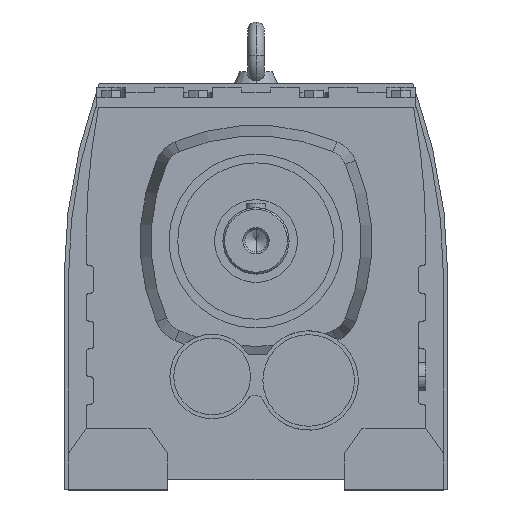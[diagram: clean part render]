
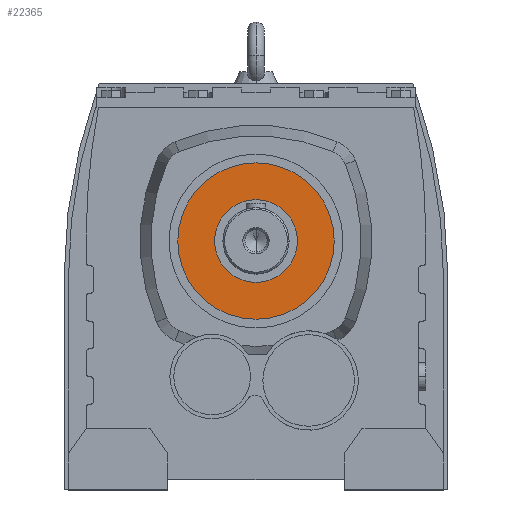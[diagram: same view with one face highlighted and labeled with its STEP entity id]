
A CAD part, top view. The second image highlights one B-rep face of the part: STEP entity #22365.
In plain terms, the highlighted planar face has unit normal (0, 0, 1).
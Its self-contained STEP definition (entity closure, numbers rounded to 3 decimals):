
#22141 = CYLINDRICAL_SURFACE('',#22142,70.875);
#22142 = AXIS2_PLACEMENT_3D('',#22143,#22144,#22145);
#22143 = CARTESIAN_POINT('',(0.,10.2,440.));
#22144 = DIRECTION('',(0.,0.,1.));
#22145 = DIRECTION('',(0.,-1.,0.));
#22171 = CYLINDRICAL_SURFACE('',#22172,70.875);
#22172 = AXIS2_PLACEMENT_3D('',#22173,#22174,#22175);
#22173 = CARTESIAN_POINT('',(0.,10.2,440.));
#22174 = DIRECTION('',(0.,0.,1.));
#22175 = DIRECTION('',(0.,-1.,0.));
#22271 = VERTEX_POINT('',#22272);
#22272 = CARTESIAN_POINT('',(0.,81.075,308.));
#22293 = VERTEX_POINT('',#22294);
#22294 = CARTESIAN_POINT('',(0.,-60.675,308.));
#22313 = EDGE_CURVE('',#22271,#22293,#22314,.T.);
#22314 = SURFACE_CURVE('',#22315,(#22320,#22326),.PCURVE_S1.);
#22315 = CIRCLE('',#22316,70.875);
#22316 = AXIS2_PLACEMENT_3D('',#22317,#22318,#22319);
#22317 = CARTESIAN_POINT('',(0.,10.2,308.));
#22318 = DIRECTION('',(0.,0.,-1.));
#22319 = DIRECTION('',(-1.,0.,0.));
#22320 = PCURVE('',#22141,#22321);
#22321 = DEFINITIONAL_REPRESENTATION('',(#22322),#22325);
#22322 = B_SPLINE_CURVE_WITH_KNOTS('',1,(#22323,#22324),.UNSPECIFIED.,
  .F.,.F.,(2,2),(1.571,4.712),
  .PIECEWISE_BEZIER_KNOTS.);
#22323 = CARTESIAN_POINT('',(3.142,-132.));
#22324 = CARTESIAN_POINT('',(0.,-132.));
#22325 = ( GEOMETRIC_REPRESENTATION_CONTEXT(2) 
PARAMETRIC_REPRESENTATION_CONTEXT() REPRESENTATION_CONTEXT('2D SPACE',''
  ) );
#22326 = PCURVE('',#22327,#22332);
#22327 = PLANE('',#22328);
#22328 = AXIS2_PLACEMENT_3D('',#22329,#22330,#22331);
#22329 = CARTESIAN_POINT('',(-30.573,-1.227,308.));
#22330 = DIRECTION('',(0.,0.,-1.));
#22331 = DIRECTION('',(-1.,0.,0.));
#22332 = DEFINITIONAL_REPRESENTATION('',(#22333),#22337);
#22333 = CIRCLE('',#22334,70.875);
#22334 = AXIS2_PLACEMENT_2D('',#22335,#22336);
#22335 = CARTESIAN_POINT('',(-30.573,11.427));
#22336 = DIRECTION('',(1.,0.));
#22337 = ( GEOMETRIC_REPRESENTATION_CONTEXT(2) 
PARAMETRIC_REPRESENTATION_CONTEXT() REPRESENTATION_CONTEXT('2D SPACE',''
  ) );
#22342 = EDGE_CURVE('',#22293,#22271,#22343,.T.);
#22343 = SURFACE_CURVE('',#22344,(#22349,#22355),.PCURVE_S1.);
#22344 = CIRCLE('',#22345,70.875);
#22345 = AXIS2_PLACEMENT_3D('',#22346,#22347,#22348);
#22346 = CARTESIAN_POINT('',(0.,10.2,308.));
#22347 = DIRECTION('',(0.,0.,-1.));
#22348 = DIRECTION('',(-1.,0.,0.));
#22349 = PCURVE('',#22171,#22350);
#22350 = DEFINITIONAL_REPRESENTATION('',(#22351),#22354);
#22351 = B_SPLINE_CURVE_WITH_KNOTS('',1,(#22352,#22353),.UNSPECIFIED.,
  .F.,.F.,(2,2),(4.712,7.854),
  .PIECEWISE_BEZIER_KNOTS.);
#22352 = CARTESIAN_POINT('',(6.283,-132.));
#22353 = CARTESIAN_POINT('',(3.142,-132.));
#22354 = ( GEOMETRIC_REPRESENTATION_CONTEXT(2) 
PARAMETRIC_REPRESENTATION_CONTEXT() REPRESENTATION_CONTEXT('2D SPACE',''
  ) );
#22355 = PCURVE('',#22327,#22356);
#22356 = DEFINITIONAL_REPRESENTATION('',(#22357),#22361);
#22357 = CIRCLE('',#22358,70.875);
#22358 = AXIS2_PLACEMENT_2D('',#22359,#22360);
#22359 = CARTESIAN_POINT('',(-30.573,11.427));
#22360 = DIRECTION('',(1.,0.));
#22361 = ( GEOMETRIC_REPRESENTATION_CONTEXT(2) 
PARAMETRIC_REPRESENTATION_CONTEXT() REPRESENTATION_CONTEXT('2D SPACE',''
  ) );
#22365 = ADVANCED_FACE('',(#22366,#22370),#22327,.F.);
#22366 = FACE_BOUND('',#22367,.T.);
#22367 = EDGE_LOOP('',(#22368,#22369));
#22368 = ORIENTED_EDGE('',*,*,#22342,.F.);
#22369 = ORIENTED_EDGE('',*,*,#22313,.F.);
#22370 = FACE_BOUND('',#22371,.T.);
#22371 = EDGE_LOOP('',(#22372,#22406));
#22372 = ORIENTED_EDGE('',*,*,#22373,.F.);
#22373 = EDGE_CURVE('',#22374,#22376,#22378,.T.);
#22374 = VERTEX_POINT('',#22375);
#22375 = CARTESIAN_POINT('',(0.,-27.3,308.));
#22376 = VERTEX_POINT('',#22377);
#22377 = CARTESIAN_POINT('',(0.,47.7,308.));
#22378 = SURFACE_CURVE('',#22379,(#22384,#22395),.PCURVE_S1.);
#22379 = CIRCLE('',#22380,37.5);
#22380 = AXIS2_PLACEMENT_3D('',#22381,#22382,#22383);
#22381 = CARTESIAN_POINT('',(0.,10.2,308.));
#22382 = DIRECTION('',(0.,0.,1.));
#22383 = DIRECTION('',(-1.,0.,0.));
#22384 = PCURVE('',#22327,#22385);
#22385 = DEFINITIONAL_REPRESENTATION('',(#22386),#22394);
#22386 = ( BOUNDED_CURVE() B_SPLINE_CURVE(2,(#22387,#22388,#22389,#22390
    ,#22391,#22392,#22393),.UNSPECIFIED.,.T.,.F.) 
B_SPLINE_CURVE_WITH_KNOTS((1,2,2,2,2,1),(-2.094,0.,
    2.094,4.189,6.283,8.378),
.UNSPECIFIED.) CURVE() GEOMETRIC_REPRESENTATION_ITEM() 
RATIONAL_B_SPLINE_CURVE((1.,0.5,1.,0.5,1.,0.5,1.)) REPRESENTATION_ITEM(
  '') );
#22387 = CARTESIAN_POINT('',(6.927,11.427));
#22388 = CARTESIAN_POINT('',(6.927,-53.525));
#22389 = CARTESIAN_POINT('',(-49.323,-21.049));
#22390 = CARTESIAN_POINT('',(-105.573,11.427));
#22391 = CARTESIAN_POINT('',(-49.323,43.903));
#22392 = CARTESIAN_POINT('',(6.927,76.379));
#22393 = CARTESIAN_POINT('',(6.927,11.427));
#22394 = ( GEOMETRIC_REPRESENTATION_CONTEXT(2) 
PARAMETRIC_REPRESENTATION_CONTEXT() REPRESENTATION_CONTEXT('2D SPACE',''
  ) );
#22395 = PCURVE('',#22396,#22401);
#22396 = CYLINDRICAL_SURFACE('',#22397,37.5);
#22397 = AXIS2_PLACEMENT_3D('',#22398,#22399,#22400);
#22398 = CARTESIAN_POINT('',(0.,10.2,440.));
#22399 = DIRECTION('',(0.,0.,1.));
#22400 = DIRECTION('',(0.,-1.,0.));
#22401 = DEFINITIONAL_REPRESENTATION('',(#22402),#22405);
#22402 = B_SPLINE_CURVE_WITH_KNOTS('',1,(#22403,#22404),.UNSPECIFIED.,
  .F.,.F.,(2,2),(1.571,4.712),
  .PIECEWISE_BEZIER_KNOTS.);
#22403 = CARTESIAN_POINT('',(0.,-132.));
#22404 = CARTESIAN_POINT('',(3.142,-132.));
#22405 = ( GEOMETRIC_REPRESENTATION_CONTEXT(2) 
PARAMETRIC_REPRESENTATION_CONTEXT() REPRESENTATION_CONTEXT('2D SPACE',''
  ) );
#22406 = ORIENTED_EDGE('',*,*,#22407,.F.);
#22407 = EDGE_CURVE('',#22376,#22374,#22408,.T.);
#22408 = SURFACE_CURVE('',#22409,(#22414,#22425),.PCURVE_S1.);
#22409 = CIRCLE('',#22410,37.5);
#22410 = AXIS2_PLACEMENT_3D('',#22411,#22412,#22413);
#22411 = CARTESIAN_POINT('',(0.,10.2,308.));
#22412 = DIRECTION('',(0.,0.,1.));
#22413 = DIRECTION('',(-1.,0.,0.));
#22414 = PCURVE('',#22327,#22415);
#22415 = DEFINITIONAL_REPRESENTATION('',(#22416),#22424);
#22416 = ( BOUNDED_CURVE() B_SPLINE_CURVE(2,(#22417,#22418,#22419,#22420
    ,#22421,#22422,#22423),.UNSPECIFIED.,.T.,.F.) 
B_SPLINE_CURVE_WITH_KNOTS((1,2,2,2,2,1),(-2.094,0.,
    2.094,4.189,6.283,8.378),
.UNSPECIFIED.) CURVE() GEOMETRIC_REPRESENTATION_ITEM() 
RATIONAL_B_SPLINE_CURVE((1.,0.5,1.,0.5,1.,0.5,1.)) REPRESENTATION_ITEM(
  '') );
#22417 = CARTESIAN_POINT('',(6.927,11.427));
#22418 = CARTESIAN_POINT('',(6.927,-53.525));
#22419 = CARTESIAN_POINT('',(-49.323,-21.049));
#22420 = CARTESIAN_POINT('',(-105.573,11.427));
#22421 = CARTESIAN_POINT('',(-49.323,43.903));
#22422 = CARTESIAN_POINT('',(6.927,76.379));
#22423 = CARTESIAN_POINT('',(6.927,11.427));
#22424 = ( GEOMETRIC_REPRESENTATION_CONTEXT(2) 
PARAMETRIC_REPRESENTATION_CONTEXT() REPRESENTATION_CONTEXT('2D SPACE',''
  ) );
#22425 = PCURVE('',#22426,#22431);
#22426 = CYLINDRICAL_SURFACE('',#22427,37.5);
#22427 = AXIS2_PLACEMENT_3D('',#22428,#22429,#22430);
#22428 = CARTESIAN_POINT('',(0.,10.2,440.));
#22429 = DIRECTION('',(0.,0.,1.));
#22430 = DIRECTION('',(0.,-1.,0.));
#22431 = DEFINITIONAL_REPRESENTATION('',(#22432),#22435);
#22432 = B_SPLINE_CURVE_WITH_KNOTS('',1,(#22433,#22434),.UNSPECIFIED.,
  .F.,.F.,(2,2),(4.712,7.854),
  .PIECEWISE_BEZIER_KNOTS.);
#22433 = CARTESIAN_POINT('',(3.142,-132.));
#22434 = CARTESIAN_POINT('',(6.283,-132.));
#22435 = ( GEOMETRIC_REPRESENTATION_CONTEXT(2) 
PARAMETRIC_REPRESENTATION_CONTEXT() REPRESENTATION_CONTEXT('2D SPACE',''
  ) );
